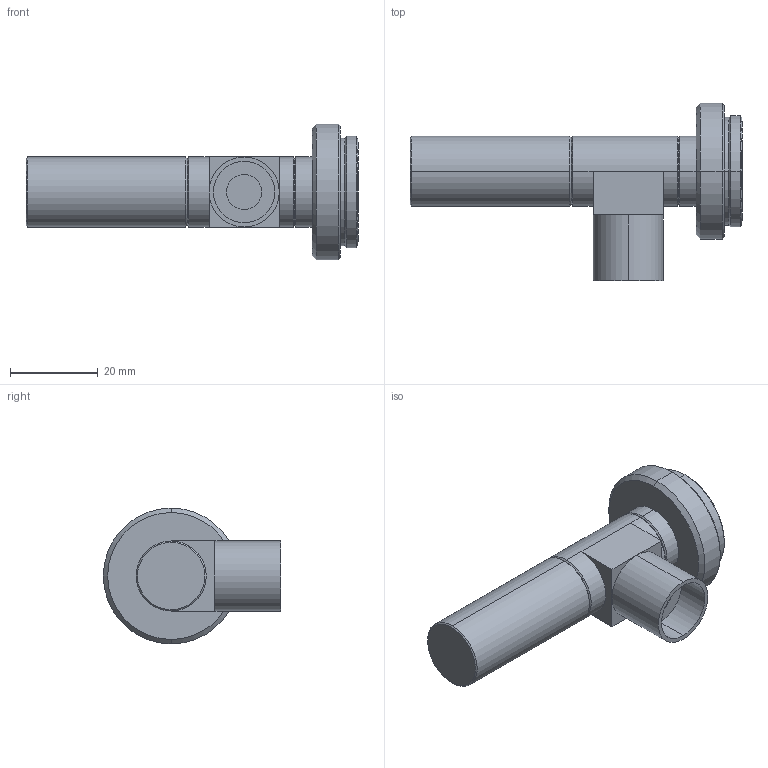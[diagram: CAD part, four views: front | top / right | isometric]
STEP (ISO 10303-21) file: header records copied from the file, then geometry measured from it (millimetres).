
FILE_DESCRIPTION (( 'STEP AP203' ), '1' );
FILE_NAME ('VS-TC08-120CO.STEP', '2018-07-10T04:57:38', ( '' ), ( '' ), 'SwSTEP 2.0', 'SolidWorks 2018', '' );
FILE_SCHEMA (( 'CONFIG_CONTROL_DESIGN' ));
Length unit declared in the file: millimetre
Products named in the file (1): VS-TC08-120CO
Bounding box: 75.82 x 40.5 x 31 mm (x, y, z)
Volume: 20933.1 mm3; surface area: 7518.4 mm2
Topology: 1 solids, 1 shells, 57 faces, 114 edges, 64 vertices
Faces by surface type: cylinder 21, cone 20, plane 16
Entity records: 1535 total; most frequent: DIRECTION 288, CARTESIAN_POINT 236, ORIENTED_EDGE 228, AXIS2_PLACEMENT_3D 116, EDGE_CURVE 114, VERTEX_POINT 64, EDGE_LOOP 62, CIRCLE 58
